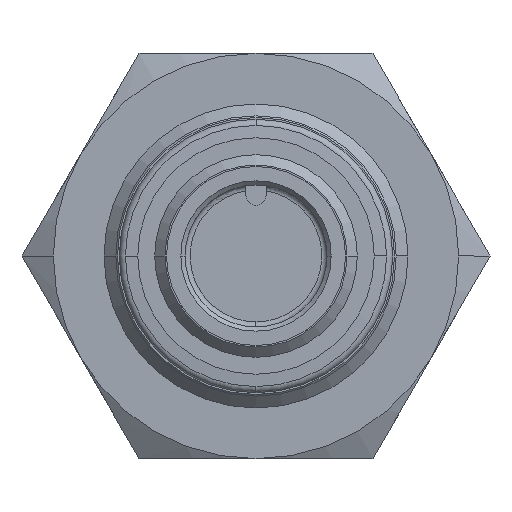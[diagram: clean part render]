
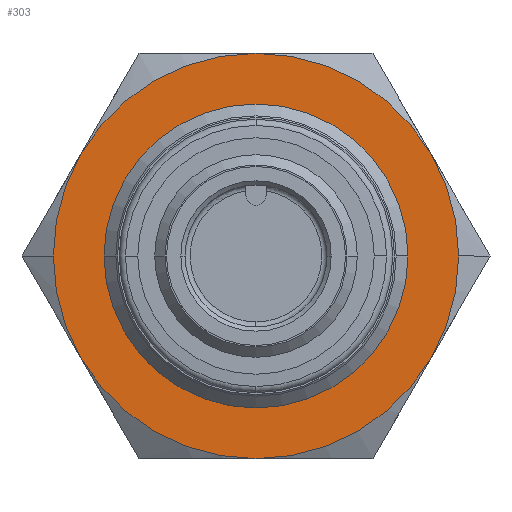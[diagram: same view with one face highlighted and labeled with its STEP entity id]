
A CAD part, left-side view. The second image highlights one B-rep face of the part: STEP entity #303.
In plain terms, the highlighted planar face has unit normal (-1, 0, 0).
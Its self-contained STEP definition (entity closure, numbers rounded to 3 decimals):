
#303 = ADVANCED_FACE( '', ( #579, #580 ), #581, .T. );
#579 = FACE_BOUND( '', #856, .T. );
#580 = FACE_OUTER_BOUND( '', #857, .T. );
#581 = PLANE( '', #858 );
#856 = EDGE_LOOP( '', ( #1845, #1846 ) );
#857 = EDGE_LOOP( '', ( #1847, #1848, #1849, #1850, #1851, #1852, #1853, #1854 ) );
#858 = AXIS2_PLACEMENT_3D( '', #1855, #1856, #1857 );
#1845 = ORIENTED_EDGE( '', *, *, #2119, .T. );
#1846 = ORIENTED_EDGE( '', *, *, #2107, .T. );
#1847 = ORIENTED_EDGE( '', *, *, #2157, .T. );
#1848 = ORIENTED_EDGE( '', *, *, #2096, .T. );
#1849 = ORIENTED_EDGE( '', *, *, #2152, .T. );
#1850 = ORIENTED_EDGE( '', *, *, #2153, .T. );
#1851 = ORIENTED_EDGE( '', *, *, #2098, .T. );
#1852 = ORIENTED_EDGE( '', *, *, #2154, .T. );
#1853 = ORIENTED_EDGE( '', *, *, #2155, .T. );
#1854 = ORIENTED_EDGE( '', *, *, #2156, .T. );
#1855 = CARTESIAN_POINT( '', ( 26., 6., 0. ) );
#1856 = DIRECTION( '', ( -1., 0., 0. ) );
#1857 = DIRECTION( '', ( 0., 1., 0. ) );
#2096 = EDGE_CURVE( '', #2539, #2541, #2543, .T. );
#2098 = EDGE_CURVE( '', #2547, #2544, #2548, .T. );
#2107 = EDGE_CURVE( '', #2565, #2562, #2566, .T. );
#2119 = EDGE_CURVE( '', #2562, #2565, #2583, .T. );
#2152 = EDGE_CURVE( '', #2541, #2589, #2632, .T. );
#2153 = EDGE_CURVE( '', #2589, #2547, #2633, .T. );
#2154 = EDGE_CURVE( '', #2544, #2620, #2634, .T. );
#2155 = EDGE_CURVE( '', #2620, #2612, #2635, .T. );
#2156 = EDGE_CURVE( '', #2612, #2599, #2636, .T. );
#2157 = EDGE_CURVE( '', #2599, #2539, #2637, .T. );
#2539 = VERTEX_POINT( '', #3605 );
#2541 = VERTEX_POINT( '', #3608 );
#2543 = CIRCLE( '', #3619, 12. );
#2544 = VERTEX_POINT( '', #3620 );
#2547 = VERTEX_POINT( '', #3624 );
#2548 = CIRCLE( '', #3625, 12. );
#2562 = VERTEX_POINT( '', #3668 );
#2565 = VERTEX_POINT( '', #3672 );
#2566 = CIRCLE( '', #3673, 9. );
#2583 = CIRCLE( '', #3695, 9. );
#2589 = VERTEX_POINT( '', #3711 );
#2599 = VERTEX_POINT( '', #3759 );
#2612 = VERTEX_POINT( '', #3836 );
#2620 = VERTEX_POINT( '', #3881 );
#2632 = CIRCLE( '', #3930, 12. );
#2633 = CIRCLE( '', #3931, 12. );
#2634 = CIRCLE( '', #3932, 12. );
#2635 = CIRCLE( '', #3933, 12. );
#2636 = CIRCLE( '', #3934, 12. );
#2637 = CIRCLE( '', #3935, 12. );
#3605 = CARTESIAN_POINT( '', ( 26., 12., 0. ) );
#3608 = CARTESIAN_POINT( '', ( 26., 10.392, -6. ) );
#3619 = AXIS2_PLACEMENT_3D( '', #4351, #4352, #4353 );
#3620 = CARTESIAN_POINT( '', ( 26., -12., 0. ) );
#3624 = CARTESIAN_POINT( '', ( 26., -10.392, -6. ) );
#3625 = AXIS2_PLACEMENT_3D( '', #4355, #4356, #4357 );
#3668 = CARTESIAN_POINT( '', ( 26., 9., 0. ) );
#3672 = CARTESIAN_POINT( '', ( 26., -9., 0. ) );
#3673 = AXIS2_PLACEMENT_3D( '', #4367, #4368, #4369 );
#3695 = AXIS2_PLACEMENT_3D( '', #4393, #4394, #4395 );
#3711 = CARTESIAN_POINT( '', ( 26., 0., -12. ) );
#3759 = CARTESIAN_POINT( '', ( 26., 10.392, 6. ) );
#3836 = CARTESIAN_POINT( '', ( 26., 0., 12. ) );
#3881 = CARTESIAN_POINT( '', ( 26., -10.392, 6. ) );
#3930 = AXIS2_PLACEMENT_3D( '', #4420, #4421, #4422 );
#3931 = AXIS2_PLACEMENT_3D( '', #4423, #4424, #4425 );
#3932 = AXIS2_PLACEMENT_3D( '', #4426, #4427, #4428 );
#3933 = AXIS2_PLACEMENT_3D( '', #4429, #4430, #4431 );
#3934 = AXIS2_PLACEMENT_3D( '', #4432, #4433, #4434 );
#3935 = AXIS2_PLACEMENT_3D( '', #4435, #4436, #4437 );
#4351 = CARTESIAN_POINT( '', ( 26., 0., 0. ) );
#4352 = DIRECTION( '', ( -1., 0., 0. ) );
#4353 = DIRECTION( '', ( 0., 1., 0. ) );
#4355 = CARTESIAN_POINT( '', ( 26., 0., 0. ) );
#4356 = DIRECTION( '', ( -1., 0., 0. ) );
#4357 = DIRECTION( '', ( 0., 1., 0. ) );
#4367 = CARTESIAN_POINT( '', ( 26., 0., 0. ) );
#4368 = DIRECTION( '', ( 1., 0., 0. ) );
#4369 = DIRECTION( '', ( 0., 1., 0. ) );
#4393 = CARTESIAN_POINT( '', ( 26., 0., 0. ) );
#4394 = DIRECTION( '', ( 1., 0., 0. ) );
#4395 = DIRECTION( '', ( 0., 1., 0. ) );
#4420 = CARTESIAN_POINT( '', ( 26., 0., 0. ) );
#4421 = DIRECTION( '', ( -1., 0., 0. ) );
#4422 = DIRECTION( '', ( 0., 1., 0. ) );
#4423 = CARTESIAN_POINT( '', ( 26., 0., 0. ) );
#4424 = DIRECTION( '', ( -1., 0., 0. ) );
#4425 = DIRECTION( '', ( 0., 1., 0. ) );
#4426 = CARTESIAN_POINT( '', ( 26., 0., 0. ) );
#4427 = DIRECTION( '', ( -1., 0., 0. ) );
#4428 = DIRECTION( '', ( 0., 1., 0. ) );
#4429 = CARTESIAN_POINT( '', ( 26., 0., 0. ) );
#4430 = DIRECTION( '', ( -1., 0., 0. ) );
#4431 = DIRECTION( '', ( 0., 1., 0. ) );
#4432 = CARTESIAN_POINT( '', ( 26., 0., 0. ) );
#4433 = DIRECTION( '', ( -1., 0., 0. ) );
#4434 = DIRECTION( '', ( 0., 1., 0. ) );
#4435 = CARTESIAN_POINT( '', ( 26., 0., 0. ) );
#4436 = DIRECTION( '', ( -1., 0., 0. ) );
#4437 = DIRECTION( '', ( 0., 1., 0. ) );
